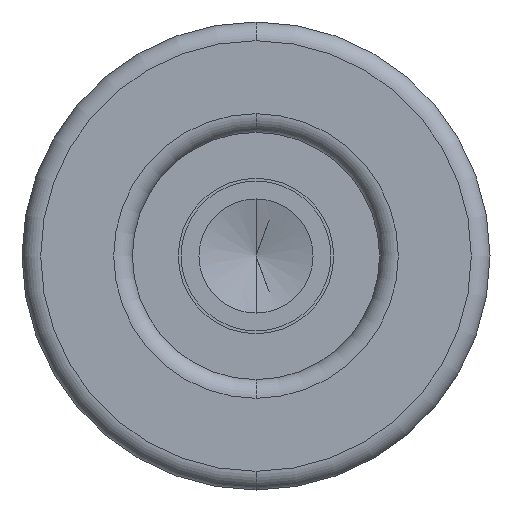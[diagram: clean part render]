
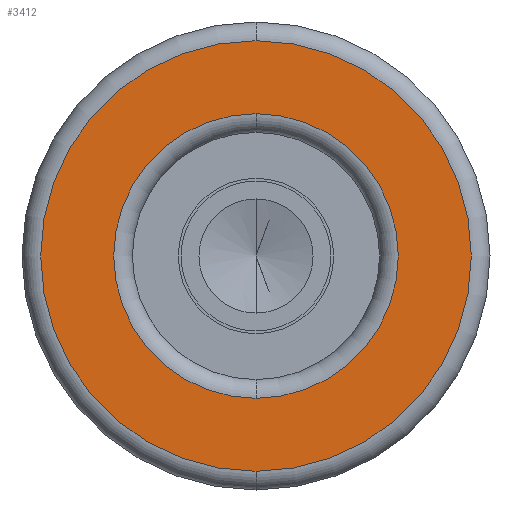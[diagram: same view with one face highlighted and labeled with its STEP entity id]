
A CAD part, front view. The second image highlights one B-rep face of the part: STEP entity #3412.
In plain terms, the highlighted planar face has unit normal (0, -1, 0).
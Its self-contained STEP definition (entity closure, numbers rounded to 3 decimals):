
#171 = CIRCLE ( 'NONE', #4843, 7.6 ) ;
#301 = ORIENTED_EDGE ( 'NONE', *, *, #2487, .T. ) ;
#716 = DIRECTION ( 'NONE',  ( 0., -1., 0. ) ) ;
#929 = CARTESIAN_POINT ( 'NONE',  ( 0., 0., 0. ) ) ;
#1120 = CIRCLE ( 'NONE', #6264, 11.5 ) ;
#1282 = DIRECTION ( 'NONE',  ( 0., -1., 0. ) ) ;
#1712 = CIRCLE ( 'NONE', #3776, 7.6 ) ;
#1751 = EDGE_CURVE ( 'NONE', #7925, #3401, #171, .T. ) ;
#1784 = DIRECTION ( 'NONE',  ( 0., 0., -1. ) ) ;
#2041 = CARTESIAN_POINT ( 'NONE',  ( 0., 0., 0. ) ) ;
#2141 = AXIS2_PLACEMENT_3D ( 'NONE', #4551, #1282, #5939 ) ;
#2487 = EDGE_CURVE ( 'NONE', #2704, #3572, #1120, .T. ) ;
#2680 = PLANE ( 'NONE',  #4454 ) ;
#2704 = VERTEX_POINT ( 'NONE', #7266 ) ;
#3014 = CARTESIAN_POINT ( 'NONE',  ( 0., 0., 0. ) ) ;
#3401 = VERTEX_POINT ( 'NONE', #7278 ) ;
#3412 = ADVANCED_FACE ( 'NONE', ( #8189, #3889 ), #2680, .T. ) ;
#3555 = EDGE_LOOP ( 'NONE', ( #7316, #301 ) ) ;
#3572 = VERTEX_POINT ( 'NONE', #4748 ) ;
#3694 = DIRECTION ( 'NONE',  ( 0., 1., 0. ) ) ;
#3776 = AXIS2_PLACEMENT_3D ( 'NONE', #3014, #3694, #1784 ) ;
#3889 = FACE_OUTER_BOUND ( 'NONE', #3555, .T. ) ;
#4179 = DIRECTION ( 'NONE',  ( 0., 0., -1. ) ) ;
#4454 = AXIS2_PLACEMENT_3D ( 'NONE', #6704, #5980, #5360 ) ;
#4551 = CARTESIAN_POINT ( 'NONE',  ( 0., 0., 0. ) ) ;
#4654 = DIRECTION ( 'NONE',  ( 0., 0., -1. ) ) ;
#4748 = CARTESIAN_POINT ( 'NONE',  ( 0., 0., -11.5 ) ) ;
#4843 = AXIS2_PLACEMENT_3D ( 'NONE', #929, #6853, #4179 ) ;
#5315 = EDGE_CURVE ( 'NONE', #3401, #7925, #1712, .T. ) ;
#5336 = CIRCLE ( 'NONE', #2141, 11.5 ) ;
#5360 = DIRECTION ( 'NONE',  ( 0., 0., -1. ) ) ;
#5549 = ORIENTED_EDGE ( 'NONE', *, *, #1751, .T. ) ;
#5939 = DIRECTION ( 'NONE',  ( 0., 0., -1. ) ) ;
#5980 = DIRECTION ( 'NONE',  ( 0., -1., 0. ) ) ;
#6264 = AXIS2_PLACEMENT_3D ( 'NONE', #2041, #716, #4654 ) ;
#6704 = CARTESIAN_POINT ( 'NONE',  ( -6.6, 0., 0. ) ) ;
#6797 = EDGE_CURVE ( 'NONE', #3572, #2704, #5336, .T. ) ;
#6853 = DIRECTION ( 'NONE',  ( 0., 1., 0. ) ) ;
#7266 = CARTESIAN_POINT ( 'NONE',  ( 0., 0., 11.5 ) ) ;
#7278 = CARTESIAN_POINT ( 'NONE',  ( 0., 0., 7.6 ) ) ;
#7316 = ORIENTED_EDGE ( 'NONE', *, *, #6797, .T. ) ;
#7440 = ORIENTED_EDGE ( 'NONE', *, *, #5315, .T. ) ;
#7495 = EDGE_LOOP ( 'NONE', ( #5549, #7440 ) ) ;
#7925 = VERTEX_POINT ( 'NONE', #8408 ) ;
#8189 = FACE_BOUND ( 'NONE', #7495, .T. ) ;
#8408 = CARTESIAN_POINT ( 'NONE',  ( 0., 0., -7.6 ) ) ;
